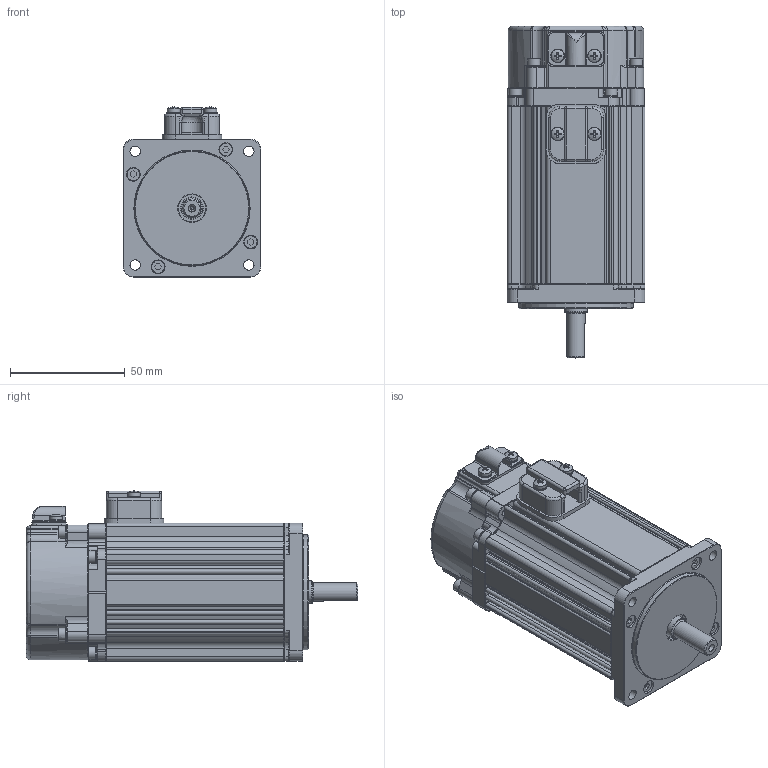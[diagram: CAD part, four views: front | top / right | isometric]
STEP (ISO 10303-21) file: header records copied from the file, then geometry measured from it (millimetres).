
FILE_DESCRIPTION(('STEP AP203'),'1');
FILE_NAME('B500E-D2R.stp','2021-04-14T07:20:18',(' '),(' '),'Spatial InterOp 3D',' ',' ');
FILE_SCHEMA(('CONFIG_CONTROL_DESIGN'));
Length unit declared in the file: millimetre
Products named in the file (1): B500E-D2R
Bounding box: 60 x 144.5 x 74.08 mm (x, y, z)
Volume: 372682.1 mm3; surface area: 47882.4 mm2
Topology: 1 solids, 11 shells, 1518 faces, 3660 edges, 2177 vertices
Faces by surface type: plane 679, cylinder 360, cone 325, torus 124, bspline 15, sphere 11, offset 4
Full cylindrical faces by diameter (mm): 1.6 x1, 2.5 x13, 3 x16, 3.5 x18, 4.5 x4, 5.5 x12, 5.6 x4, 6 x4, 7 x1, 8 x1, 9 x1, 9.8 x1, 12 x1, 50 x1
Entity records: 46199 total; most frequent: CARTESIAN_POINT 11350, DIRECTION 7638, ORIENTED_EDGE 6932, EDGE_CURVE 3466, AXIS2_PLACEMENT_3D 2923, VERTEX_POINT 2113, LINE 1792, VECTOR 1792
